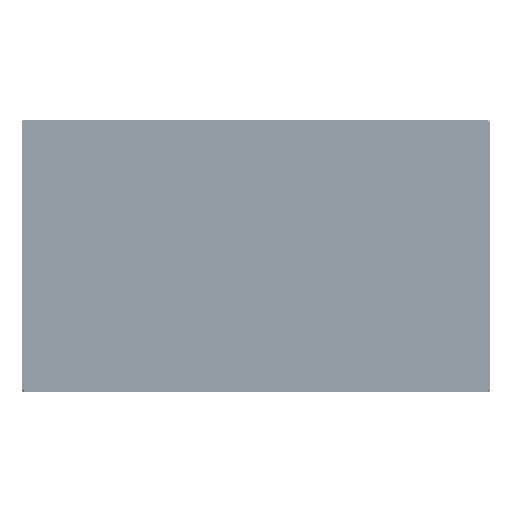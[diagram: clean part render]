
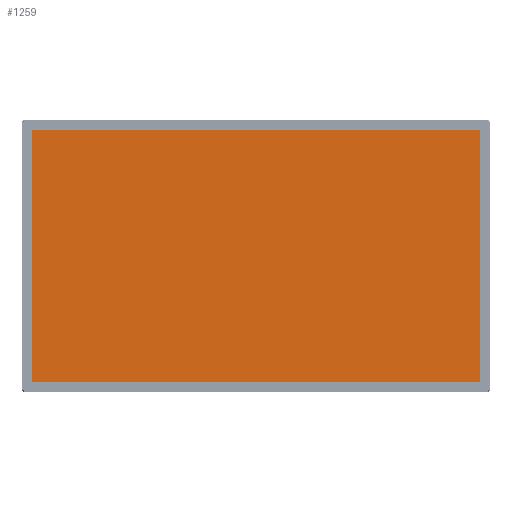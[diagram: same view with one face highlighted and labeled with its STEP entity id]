
A CAD part, top view. The second image highlights one B-rep face of the part: STEP entity #1259.
In plain terms, the highlighted planar face has unit normal (0, 0, 1).
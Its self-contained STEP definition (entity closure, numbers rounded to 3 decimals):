
#515=DIRECTION('',(0.,-1.,0.));
#516=VECTOR('',#515,682.5);
#517=CARTESIAN_POINT('',(-605.85,341.25,2.6));
#518=LINE('',#517,#516);
#529=DIRECTION('',(-1.,0.,0.));
#530=VECTOR('',#529,1211.7);
#531=CARTESIAN_POINT('',(605.85,341.25,2.6));
#532=LINE('',#531,#530);
#543=DIRECTION('',(0.,1.,0.));
#544=VECTOR('',#543,682.5);
#545=CARTESIAN_POINT('',(605.85,-341.25,2.6));
#546=LINE('',#545,#544);
#557=DIRECTION('',(1.,0.,0.));
#558=VECTOR('',#557,1211.7);
#559=CARTESIAN_POINT('',(-605.85,-341.25,2.6));
#560=LINE('',#559,#558);
#764=CARTESIAN_POINT('',(-605.85,341.25,2.6));
#765=VERTEX_POINT('',#764);
#766=CARTESIAN_POINT('',(-605.85,-341.25,2.6));
#767=VERTEX_POINT('',#766);
#768=CARTESIAN_POINT('',(605.85,341.25,2.6));
#769=VERTEX_POINT('',#768);
#770=CARTESIAN_POINT('',(605.85,-341.25,2.6));
#771=VERTEX_POINT('',#770);
#1248=CARTESIAN_POINT('',(0.,0.,2.6));
#1249=DIRECTION('',(0.,0.,1.));
#1250=DIRECTION('',(1.,0.,0.));
#1251=AXIS2_PLACEMENT_3D('',#1248,#1249,#1250);
#1252=PLANE('',#1251);
#1253=ORIENTED_EDGE('',*,*,#1200,.F.);
#1254=ORIENTED_EDGE('',*,*,#1215,.F.);
#1255=ORIENTED_EDGE('',*,*,#1229,.F.);
#1256=ORIENTED_EDGE('',*,*,#1242,.F.);
#1257=EDGE_LOOP('',(#1253,#1254,#1255,#1256));
#1258=FACE_OUTER_BOUND('',#1257,.F.);
#1259=ADVANCED_FACE('',(#1258),#1252,.T.);
#1200=EDGE_CURVE('',#765,#767,#518,.T.);
#1215=EDGE_CURVE('',#769,#765,#532,.T.);
#1229=EDGE_CURVE('',#771,#769,#546,.T.);
#1242=EDGE_CURVE('',#767,#771,#560,.T.);
